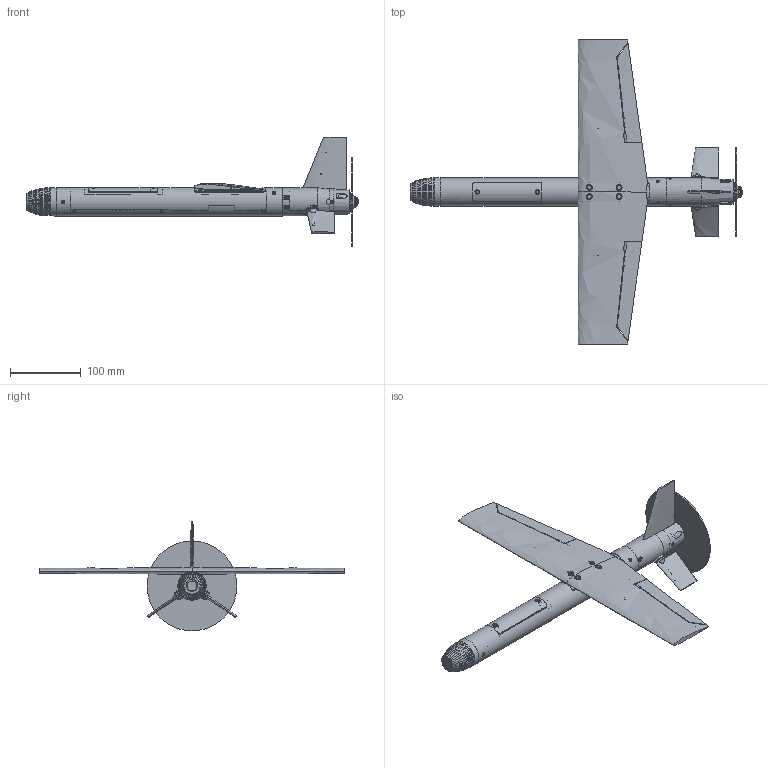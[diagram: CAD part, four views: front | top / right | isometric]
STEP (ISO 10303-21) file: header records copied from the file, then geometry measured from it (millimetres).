
FILE_DESCRIPTION(('SkyG Speed 90B - revision C6B-15 - 2026-10-12','C6B-assembly'),'2;1');
FILE_NAME('C6B-assembly_C6B-15','2026-10-12T17:13:42',('Author'),( 'Open CASCADE'),'Open CASCADE STEP processor 7.9','Open CASCADE 7.9' ,'Unknown');
FILE_SCHEMA(('AUTOMOTIVE_DESIGN { 1 0 10303 214 1 1 1 1 }'));
Length unit declared in the file: millimetre
Products named in the file (168): C4; N0M-nose-micro-camera; N0M-vtx-shelf; F3-tail-module; WR-wing-right; WL-wing-left; AR-aileron-right; AL-aileron-left; SR-stabilator-right; SL-stabilator-left; FN-fin; AHR-aileron-horn-right; AHL-aileron-horn-left; THR-tail-horn-right; THL-tail-horn-left; TR-equipment-tray; BF-battery-front-stop; TC-tail-coupler; CW-countersunk-washer; NB1-wing-nut-bar-front; NB2-wing-nut-bar-rear; HL1-hatch-lip-front; HL2-hatch-lip-rear; HF-front-hatch; WF-wing-window-filler; HG-gps-carrier; M1-motor-plate; SP-spinner; ENV-scr_mplate_R; ENV-cw_15; ENV-scr_mplate_L; ENV-cw_16; ENV-motor; ENV-prop_disc; ENV-prop_hub_nut; ENV-battery; ENV-camera_micro19; ENV-cam_screws; ENV-O_o4_camera; ENV-O_window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
Assembly tree (167 placements, depth 2):
  C4
    N0M-nose-micro-camera
    N0M-vtx-shelf
    F3-tail-module
    WR-wing-right
    WL-wing-left
    AR-aileron-right
    AL-aileron-left
    SR-stabilator-right
    SL-stabilator-left
    FN-fin
    AHR-aileron-horn-right
    AHL-aileron-horn-left
    THR-tail-horn-right
    THL-tail-horn-left
    TR-equipment-tray
    BF-battery-front-stop
    TC-tail-coupler
    CW-countersunk-washer
    NB1-wing-nut-bar-front
    NB2-wing-nut-bar-rear
    HL1-hatch-lip-front
    HL2-hatch-lip-rear
    HF-front-hatch
    WF-wing-window-filler
    HG-gps-carrier
    M1-motor-plate
    SP-spinner
    ENV-scr_mplate_R
    ENV-cw_15
    ENV-scr_mplate_L
    ENV-cw_16
    ENV-motor
    ENV-prop_disc
    ENV-prop_hub_nut
    ENV-battery
    ENV-camera_micro19
    ENV-cam_screws
    ENV-O_o4_camera
    ENV-O_window
    ENV-O_o4_screws
    ENV-O_o4_module
    ENV-vtx
    ENV-gnss
    ENV-flight_controller
    ENV-ail_servo_arm
    ENV-ail_rod_R
    ENV-ail_link_R
    ENV-ail_rod_L
    ENV-ail_link_L
    ENV-ail_spine_R
    ENV-ail_spine_L
    ENV-receiver
    ENV-ant_elrs
    ENV-ant_vtx
    ENV-O_ant_video
    ENV-aileron_servo
    ENV-tail_servo_L
    ENV-tail_servo_R
    ENV-esc
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Bounding box: 469.18 x 430 x 155.1 mm (x, y, z)
Volume: 477852 mm3; surface area: 348265 mm2
Topology: 191 solids, 191 shells, 2724 faces, 6883 edges, 4559 vertices
Faces by surface type: plane 1741, cylinder 584, bspline 211, cone 155, torus 15, revolution 11, sphere 7
Full cylindrical faces by diameter (mm): 0.98 x6, 1.107 x11, 1.2 x22, 1.25 x8, 1.5 x2, 1.6 x36, 1.9 x1, 2 x34, 2.1 x2, 2.2 x24, 2.5 x2, 2.6 x4, 2.842 x6, 3 x19, 3.05 x2, 3.2 x8, 3.3 x6, 3.8 x2, 3.9 x3, 3.94 x3, 4 x4, 4.9 x16, 5 x14, 5.2 x3, 5.5 x4, 5.6 x3, 6 x5, 6.3 x2, 8 x4, 9 x1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
Entity records: 435934 total; most frequent: CARTESIAN_POINT 303073, DIRECTION 21158, ORIENTED_EDGE 13752, PCURVE 13752, DEFINITIONAL_REPRESENTATION 13752, LINE 9527, VECTOR 9527, EDGE_CURVE 6876
